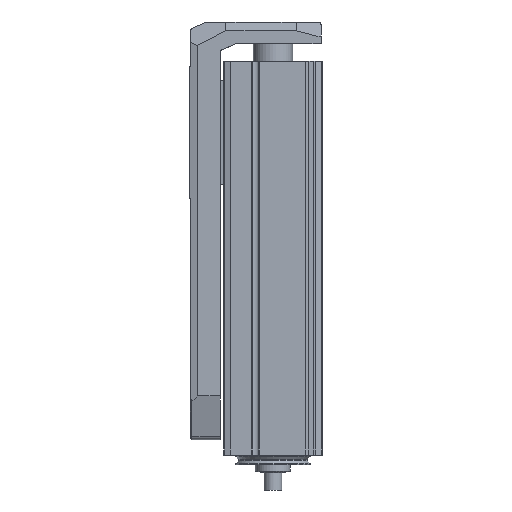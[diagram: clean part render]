
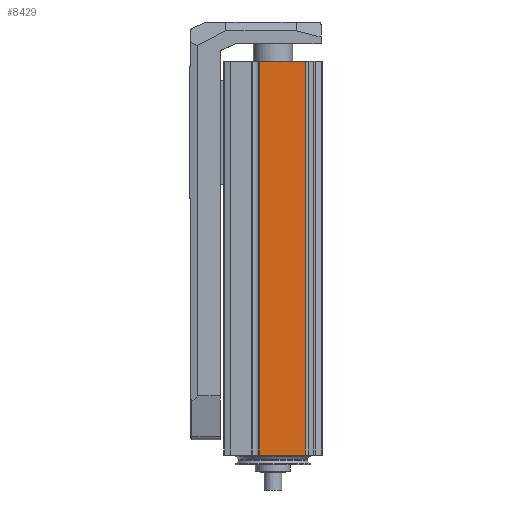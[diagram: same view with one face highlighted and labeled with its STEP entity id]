
A CAD part, left-side view. The second image highlights one B-rep face of the part: STEP entity #8429.
In plain terms, the highlighted planar face has unit normal (-1, 0, 0) as drawn and (0, 0, 1) by its records, which use the part's own axes.
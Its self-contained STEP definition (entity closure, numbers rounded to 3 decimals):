
#773=LINE('',#13561,#1303);
#789=LINE('',#13607,#1319);
#790=LINE('',#13611,#1320);
#791=LINE('',#13613,#1321);
#1303=VECTOR('',#10859,1000.);
#1319=VECTOR('',#10905,1000.);
#1320=VECTOR('',#10910,1000.);
#1321=VECTOR('',#10911,1000.);
#2647=ORIENTED_EDGE('',*,*,#4217,.T.);
#2648=ORIENTED_EDGE('',*,*,#4242,.F.);
#2649=ORIENTED_EDGE('',*,*,#4243,.F.);
#2650=ORIENTED_EDGE('',*,*,#4240,.T.);
#4217=EDGE_CURVE('',#5077,#5076,#773,.T.);
#4240=EDGE_CURVE('',#5092,#5077,#789,.T.);
#4242=EDGE_CURVE('',#5093,#5076,#790,.T.);
#4243=EDGE_CURVE('',#5092,#5093,#791,.T.);
#5076=VERTEX_POINT('',#13560);
#5077=VERTEX_POINT('',#13562);
#5092=VERTEX_POINT('',#13608);
#5093=VERTEX_POINT('',#13612);
#6009=EDGE_LOOP('',(#2647,#2648,#2649,#2650));
#6621=FACE_BOUND('',#6009,.T.);
#6947=PLANE('',#9134);
#8429=ADVANCED_FACE('',(#6621),#6947,.F.);
#9134=AXIS2_PLACEMENT_3D('',#13610,#10908,#10909);
#10859=DIRECTION('',(0.,-1.,0.));
#10905=DIRECTION('',(-1.,0.,0.));
#10908=DIRECTION('',(0.,0.,-1.));
#10909=DIRECTION('',(-1.,0.,0.));
#10910=DIRECTION('',(-1.,0.,0.));
#10911=DIRECTION('',(0.,-1.,0.));
#13560=CARTESIAN_POINT('',(0.,-6.3,22.5));
#13561=CARTESIAN_POINT('',(0.,14.82,22.5));
#13562=CARTESIAN_POINT('',(0.,14.82,22.5));
#13607=CARTESIAN_POINT('',(180.,14.82,22.5));
#13608=CARTESIAN_POINT('',(180.,14.82,22.5));
#13610=CARTESIAN_POINT('',(180.,14.82,22.5));
#13611=CARTESIAN_POINT('',(180.,-6.3,22.5));
#13612=CARTESIAN_POINT('',(180.,-6.3,22.5));
#13613=CARTESIAN_POINT('',(180.,14.82,22.5));
